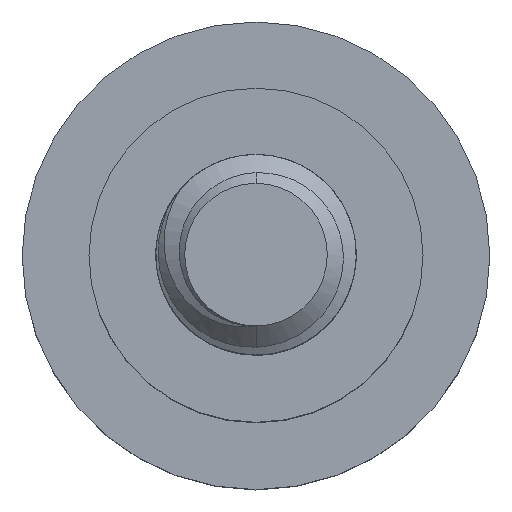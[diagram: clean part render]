
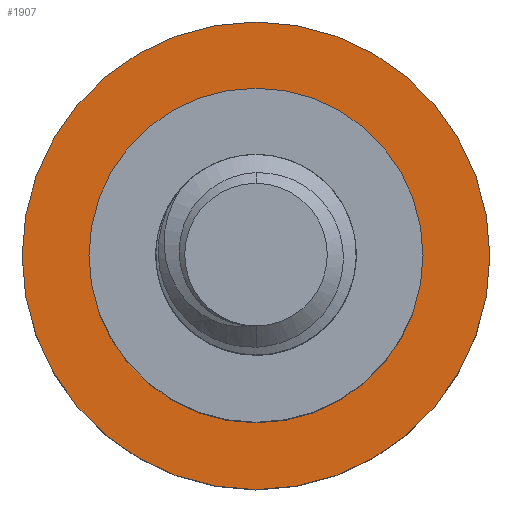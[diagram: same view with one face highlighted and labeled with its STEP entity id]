
A CAD part, top view. The second image highlights one B-rep face of the part: STEP entity #1907.
In plain terms, the highlighted planar face has unit normal (0, 0, 1).
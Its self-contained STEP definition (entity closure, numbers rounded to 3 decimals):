
#59 = EDGE_CURVE ( 'NONE', #3068, #1236, #2030, .T. ) ;
#151 = EDGE_LOOP ( 'NONE', ( #1996, #2987 ) ) ;
#344 = CARTESIAN_POINT ( 'NONE',  ( 5., 0., -10. ) ) ;
#357 = CARTESIAN_POINT ( 'NONE',  ( -5., 0., -10. ) ) ;
#380 = PLANE ( 'NONE',  #807 ) ;
#401 = DIRECTION ( 'NONE',  ( 0., 0., -1. ) ) ;
#627 = ORIENTED_EDGE ( 'NONE', *, *, #753, .T. ) ;
#747 = CARTESIAN_POINT ( 'NONE',  ( 0., 0., -10. ) ) ;
#753 = EDGE_CURVE ( 'NONE', #2492, #3050, #2105, .T. ) ;
#807 = AXIS2_PLACEMENT_3D ( 'NONE', #4029, #401, #1684 ) ;
#1043 = DIRECTION ( 'NONE',  ( -1., 0., 0. ) ) ;
#1064 = EDGE_CURVE ( 'NONE', #1236, #3068, #3153, .T. ) ;
#1236 = VERTEX_POINT ( 'NONE', #3994 ) ;
#1524 = CARTESIAN_POINT ( 'NONE',  ( 0., 0., -10. ) ) ;
#1684 = DIRECTION ( 'NONE',  ( -1., 0., 0. ) ) ;
#1767 = CIRCLE ( 'NONE', #4194, 5. ) ;
#1902 = DIRECTION ( 'NONE',  ( 0., 0., -1. ) ) ;
#1907 = ADVANCED_FACE ( 'NONE', ( #3331, #4010 ), #380, .F. ) ;
#1946 = ORIENTED_EDGE ( 'NONE', *, *, #2472, .T. ) ;
#1989 = EDGE_LOOP ( 'NONE', ( #1946, #627 ) ) ;
#1996 = ORIENTED_EDGE ( 'NONE', *, *, #59, .F. ) ;
#2012 = DIRECTION ( 'NONE',  ( 0., 0., -1. ) ) ;
#2030 = CIRCLE ( 'NONE', #2525, 7. ) ;
#2105 = CIRCLE ( 'NONE', #3912, 5. ) ;
#2231 = CARTESIAN_POINT ( 'NONE',  ( 0., 0., -10. ) ) ;
#2438 = DIRECTION ( 'NONE',  ( 0., 0., -1. ) ) ;
#2472 = EDGE_CURVE ( 'NONE', #3050, #2492, #1767, .T. ) ;
#2492 = VERTEX_POINT ( 'NONE', #344 ) ;
#2525 = AXIS2_PLACEMENT_3D ( 'NONE', #1524, #1902, #3214 ) ;
#2987 = ORIENTED_EDGE ( 'NONE', *, *, #1064, .F. ) ;
#3050 = VERTEX_POINT ( 'NONE', #357 ) ;
#3068 = VERTEX_POINT ( 'NONE', #3936 ) ;
#3153 = CIRCLE ( 'NONE', #3356, 7. ) ;
#3214 = DIRECTION ( 'NONE',  ( -1., 0., 0. ) ) ;
#3237 = DIRECTION ( 'NONE',  ( -1., 0., 0. ) ) ;
#3331 = FACE_BOUND ( 'NONE', #1989, .T. ) ;
#3356 = AXIS2_PLACEMENT_3D ( 'NONE', #2231, #3947, #3237 ) ;
#3745 = CARTESIAN_POINT ( 'NONE',  ( 0., 0., -10. ) ) ;
#3912 = AXIS2_PLACEMENT_3D ( 'NONE', #747, #2012, #1043 ) ;
#3936 = CARTESIAN_POINT ( 'NONE',  ( 7., 0., -10. ) ) ;
#3947 = DIRECTION ( 'NONE',  ( 0., 0., -1. ) ) ;
#3994 = CARTESIAN_POINT ( 'NONE',  ( -7., 0., -10. ) ) ;
#4010 = FACE_OUTER_BOUND ( 'NONE', #151, .T. ) ;
#4029 = CARTESIAN_POINT ( 'NONE',  ( 0., 0., -10. ) ) ;
#4087 = DIRECTION ( 'NONE',  ( -1., 0., 0. ) ) ;
#4194 = AXIS2_PLACEMENT_3D ( 'NONE', #3745, #2438, #4087 ) ;
